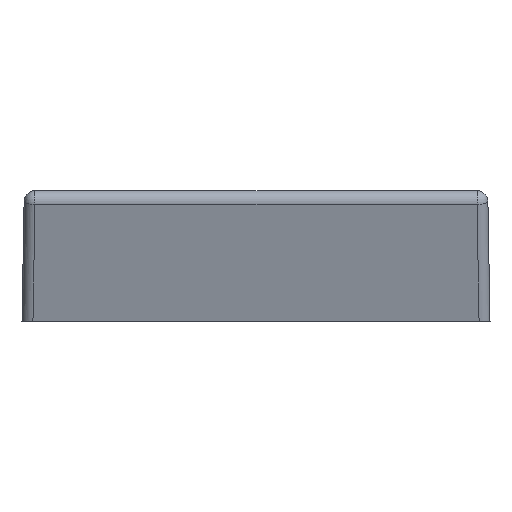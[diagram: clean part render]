
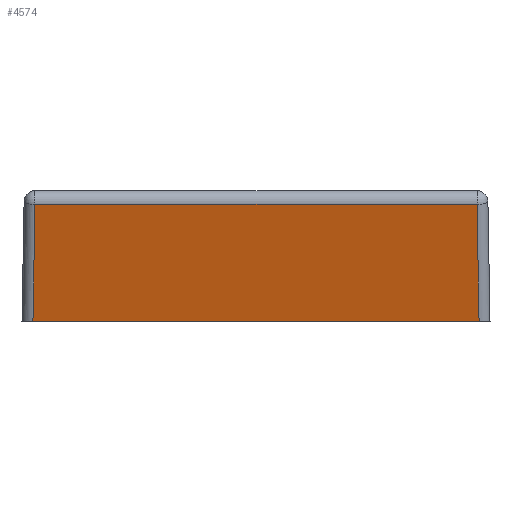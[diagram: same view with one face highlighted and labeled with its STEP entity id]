
A CAD part, front view. The second image highlights one B-rep face of the part: STEP entity #4574.
In plain terms, the highlighted planar face has unit normal (0, -0.966, -0.259).
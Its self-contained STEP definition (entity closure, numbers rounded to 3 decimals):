
#446=FACE_OUTER_BOUND('',#729,.T.);
#729=EDGE_LOOP('',(#2990,#2991,#2992,#2993));
#1008=LINE('',#6114,#1394);
#1097=LINE('',#6341,#1483);
#1098=LINE('',#6345,#1484);
#1099=LINE('',#6346,#1485);
#1394=VECTOR('',#5144,20.495);
#1483=VECTOR('',#5305,20.308);
#1484=VECTOR('',#5312,5.561);
#1485=VECTOR('',#5313,5.561);
#1782=VERTEX_POINT('',#6111);
#1783=VERTEX_POINT('',#6113);
#1884=VERTEX_POINT('',#6339);
#1885=VERTEX_POINT('',#6340);
#2208=EDGE_CURVE('',#1783,#1782,#1008,.T.);
#2321=EDGE_CURVE('',#1884,#1885,#1097,.T.);
#2324=EDGE_CURVE('',#1884,#1782,#1098,.T.);
#2325=EDGE_CURVE('',#1783,#1885,#1099,.T.);
#2990=ORIENTED_EDGE('',*,*,#2208,.T.);
#2991=ORIENTED_EDGE('',*,*,#2324,.F.);
#2992=ORIENTED_EDGE('',*,*,#2321,.T.);
#2993=ORIENTED_EDGE('',*,*,#2325,.F.);
#4171=PLANE('',#4885);
#4574=ADVANCED_FACE('',(#446),#4171,.T.);
#4885=AXIS2_PLACEMENT_3D('',#6344,#5310,#5311);
#5144=DIRECTION('',(1.,0.,0.));
#5305=DIRECTION('',(-1.,0.,0.));
#5310=DIRECTION('center_axis',(0.,-0.966,-0.259));
#5311=DIRECTION('ref_axis',(0.,0.259,-0.966));
#5312=DIRECTION('',(0.017,0.259,-0.966));
#5313=DIRECTION('',(0.017,-0.259,0.966));
#6111=CARTESIAN_POINT('',(20.998,2.418,-0.03));
#6113=CARTESIAN_POINT('',(0.502,2.418,-0.03));
#6114=CARTESIAN_POINT('',(0.502,2.418,-0.03));
#6339=CARTESIAN_POINT('',(20.904,0.979,5.34));
#6340=CARTESIAN_POINT('',(0.596,0.979,5.34));
#6341=CARTESIAN_POINT('',(20.904,0.979,5.34));
#6344=CARTESIAN_POINT('Origin',(0.,0.81,5.97));
#6345=CARTESIAN_POINT('',(20.904,0.979,5.34));
#6346=CARTESIAN_POINT('',(0.502,2.418,-0.03));
